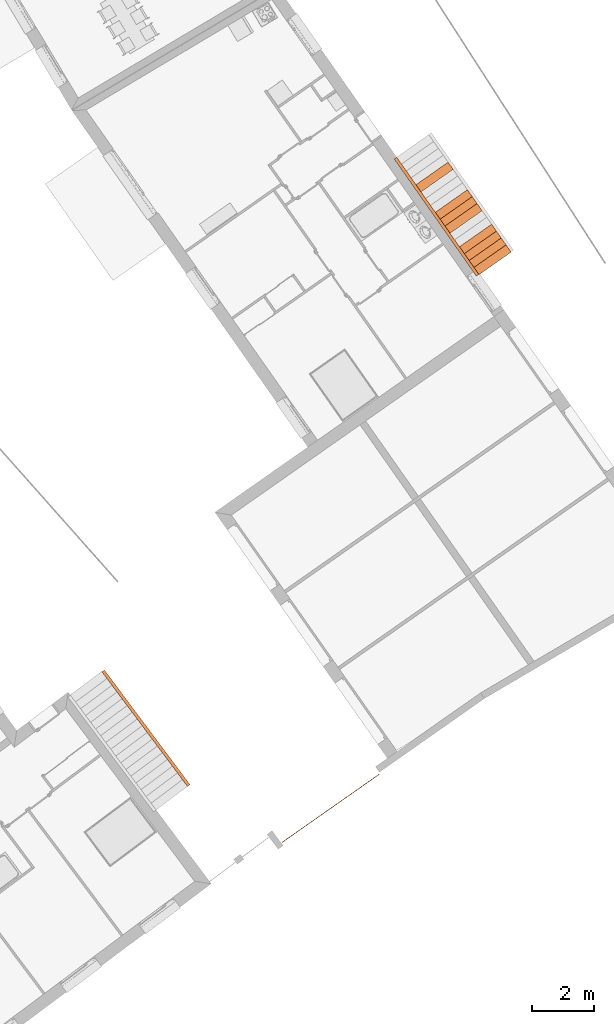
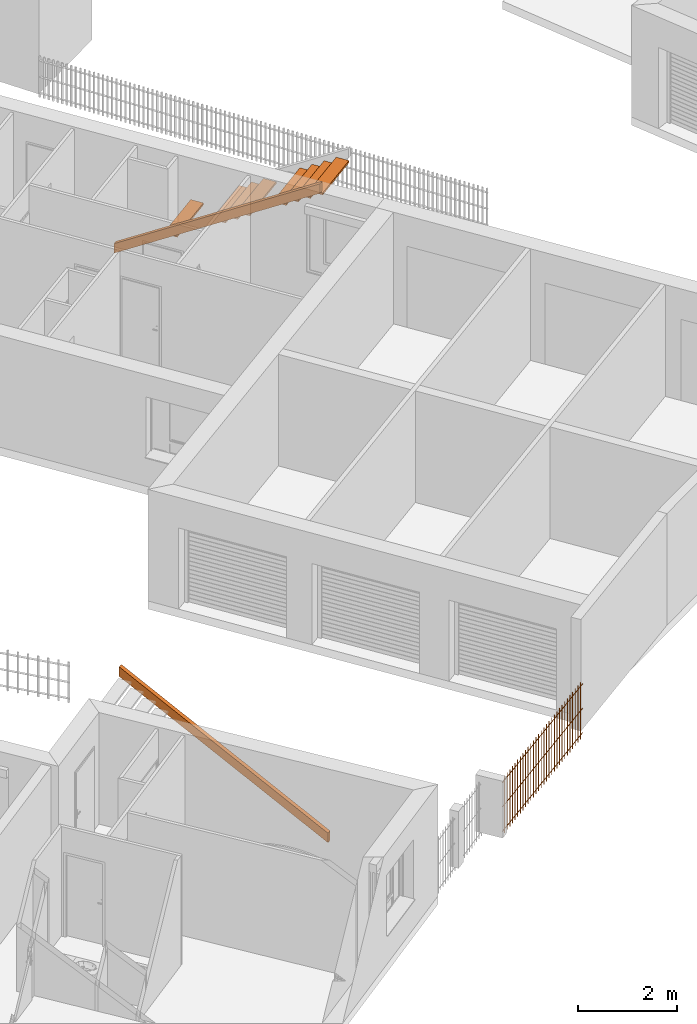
# One storey, part 185 of 195: 18 proxies, 4 elements without a shape of their own.
"""IFC2X3 building model written with IfcOpenShell, lengths in metres."""

from ifc_helpers import new_model, entity, si_unit, converted_unit, derived_unit, money_unit, direction, frame, origin_with_axes, place, context, subcontext, project, spatial, faceted_brep, material, type_object, element, aggregate, save


model = new_model("IFC2X3")

# Units and contexts
model_context = context("Model", 3, precision=1e-05, world=origin_with_axes(), true_north=direction((0.0, 1.0)))
body_context = subcontext(model_context, "Body", "Model", "MODEL_VIEW")
ifc_project = project(units=[si_unit("LENGTHUNIT", "METRE"), si_unit("AREAUNIT", "SQUARE_METRE"), si_unit("VOLUMEUNIT", "CUBIC_METRE"), converted_unit("PLANEANGLEUNIT", "DEGREE", entity("IfcPlaneAngleMeasure", 0.0174532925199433), si_unit("PLANEANGLEUNIT", "RADIAN"), dimensions=[0, 0, 0, 0, 0, 0, 0]), money_unit("CHF"), converted_unit("TIMEUNIT", "Year", entity("IfcTimeMeasure", 31557600.0), si_unit("TIMEUNIT", "SECOND"), dimensions=[0, 0, 1, 0, 0, 0, 0]), si_unit("MASSUNIT", "GRAM", prefix="KILO"), si_unit("THERMODYNAMICTEMPERATUREUNIT", "DEGREE_CELSIUS"), si_unit("LUMINOUSINTENSITYUNIT", "LUMEN"), si_unit("ENERGYUNIT", "JOULE", prefix="MEGA"), derived_unit("THERMALCONDUCTANCEUNIT", [(si_unit("POWERUNIT", "WATT"), 1), (si_unit("LENGTHUNIT", "METRE"), -1), (si_unit("THERMODYNAMICTEMPERATUREUNIT", "KELVIN"), -1)]), derived_unit("SPECIFICHEATCAPACITYUNIT", [(si_unit("ENERGYUNIT", "JOULE"), 1), (si_unit("MASSUNIT", "GRAM", prefix="KILO"), -1), (si_unit("THERMODYNAMICTEMPERATUREUNIT", "KELVIN"), -1)]), derived_unit("MASSDENSITYUNIT", [(si_unit("MASSUNIT", "GRAM", prefix="KILO"), 1), (si_unit("VOLUMEUNIT", "CUBIC_METRE"), -1)])], contexts=[model_context])

# Site, building, storey
site_placement = place(None, origin_with_axes())
site = spatial("IfcSite", under=ifc_project, at=site_placement, Name="Site", CompositionType="ELEMENT")
building_placement = place(site_placement, origin_with_axes())
building = spatial("IfcBuilding", under=site, at=building_placement, Name="Bâtiment", CompositionType="ELEMENT")
storey_placement = place(building_placement, origin_with_axes())
storey = spatial("IfcBuildingStorey", under=building, at=storey_placement, Name="rdc", CompositionType="ELEMENT", Elevation=0.0)

# Stair, proxies
stair_1_placement = place(storey_placement, frame((9553.64061674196, -1056.719987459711, 57.33248236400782), z_axis=(0.0, 0.0, 1.0), x_axis=(-0.7691003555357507, 0.6391280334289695, 0.0)))
stair_1 = element("IfcStair", 1, at=stair_1_placement, inside=storey, Name="ESC-028", ShapeType="NOTDEFINED")
ifc_material_1 = material(Name="Isolant styromousse 288701002")
building_element_proxy_type_1 = type_object("IfcBuildingElementProxyType", Name="IfcBuildingElementProxy", PredefinedType="NOTDEFINED")
proxy_1_placement = place(stair_1_placement, origin_with_axes())
proxy_1 = element("IfcBuildingElementProxy", 2, at=proxy_1_placement, type_object=building_element_proxy_type_1, material=ifc_material_1, Name="SS - 039", context=body_context, shape_type="Brep", body=[
    faceted_brep([(-4.428745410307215, 1.205949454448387, 2.882482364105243), (0.0, 0.0, 0.04914903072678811), (0.0, 0.0, 0.2841843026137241), (-4.428745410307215, 1.205949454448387, 3.117517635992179), (-4.402472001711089, 1.30243628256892, 2.882482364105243), (0.02627340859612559, 0.09648682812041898, 0.04914903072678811), (0.02627340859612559, 0.09648682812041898, 0.2841843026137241), (-4.402472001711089, 1.30243628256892, 3.117517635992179)], [[[0, 1, 2, 3]], [[4, 5, 1, 0]], [[2, 1, 5, 6]], [[3, 2, 6, 7]], [[7, 4, 0, 3]], [[7, 6, 5, 4]]]),
])
ifc_material_2 = material(Name="Lame d'air 275581351")
proxy_2_placement = place(stair_1_placement, frame((-1.169483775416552, -0.1842083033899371, 0.8333333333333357), z_axis=(0.0, 0.0, 1.0), x_axis=(-0.2627340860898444, -0.9648682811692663, 0.0)))
proxy_2 = element("IfcBuildingElementProxy", 3, at=proxy_2_placement, type_object=building_element_proxy_type_1, material=ifc_material_2, Name="MARCHE-541", context=body_context, shape_type="Brep", body=[
    faceted_brep([(-0.4850000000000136, 0.0, -0.04999999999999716), (-0.4850000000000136, 0.0, 0.0), (0.7724423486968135, -2.852402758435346e-10, 0.0), (0.7724423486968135, -2.852402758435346e-10, -0.04999999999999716), (-0.4849999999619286, -0.2849999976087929, -0.04999999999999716), (-0.4849999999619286, -0.2849999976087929, 0.0), (0.7724423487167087, -0.2849999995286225, 0.0), (0.7724423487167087, -0.2849999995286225, -0.04999999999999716)], [[[0, 1, 2, 3]], [[4, 5, 1, 0]], [[1, 5, 6, 2]], [[3, 2, 6, 7]], [[0, 3, 7, 4]], [[7, 6, 5, 4]]]),
])
proxy_3_placement = place(stair_1_placement, frame((-2.211541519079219, 0.09954450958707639, 1.5), z_axis=(0.0, 0.0, 1.0), x_axis=(-0.2627340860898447, -0.9648682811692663, 0.0)))
proxy_3 = element("IfcBuildingElementProxy", 4, at=proxy_3_placement, type_object=building_element_proxy_type_1, material=ifc_material_2, Name="MARCHE-545", context=body_context, shape_type="Brep", body=[
    faceted_brep([(-0.4850000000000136, 0.0, -0.04999999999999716), (-0.4850000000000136, 0.0, 0.0), (0.7724423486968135, -2.853539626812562e-10, 0.0), (0.7724423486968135, -2.853539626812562e-10, -0.04999999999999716), (-0.4849999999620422, -0.2849999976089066, -0.04999999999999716), (-0.4849999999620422, -0.2849999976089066, 0.0), (0.7724423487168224, -0.2849999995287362, 0.0), (0.7724423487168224, -0.2849999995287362, -0.04999999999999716)], [[[0, 1, 2, 3]], [[4, 5, 1, 0]], [[1, 5, 6, 2]], [[3, 2, 6, 7]], [[0, 3, 7, 4]], [[7, 6, 5, 4]]]),
])
proxy_4_placement = place(stair_1_placement, frame((-2.73257039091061, 0.2414209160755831, 1.833333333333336), z_axis=(0.0, 0.0, 1.0), x_axis=(-0.2627340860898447, -0.9648682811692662, 0.0)))
proxy_4 = element("IfcBuildingElementProxy", 5, at=proxy_4_placement, type_object=building_element_proxy_type_1, material=ifc_material_2, Name="MARCHE-547", context=body_context, shape_type="Brep", body=[
    faceted_brep([(-0.4850000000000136, 0.0, -0.04999999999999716), (-0.4850000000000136, 0.0, 0.0), (0.7724423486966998, -2.853539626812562e-10, 0.0), (0.7724423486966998, -2.853539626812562e-10, -0.04999999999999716), (-0.4849999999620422, -0.2849999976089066, -0.04999999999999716), (-0.4849999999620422, -0.2849999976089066, 0.0), (0.7724423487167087, -0.2849999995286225, 0.0), (0.7724423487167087, -0.2849999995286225, -0.04999999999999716)], [[[0, 1, 2, 3]], [[4, 5, 1, 0]], [[1, 5, 6, 2]], [[3, 2, 6, 7]], [[0, 3, 7, 4]], [[7, 6, 5, 4]]]),
])
proxy_5_placement = place(stair_1_placement, frame((-2.472055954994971, 0.1704827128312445, 1.666666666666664), z_axis=(0.0, 0.0, 1.0), x_axis=(-0.2627340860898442, -0.9648682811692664, 0.0)))
proxy_5 = element("IfcBuildingElementProxy", 6, at=proxy_5_placement, type_object=building_element_proxy_type_1, material=ifc_material_2, Name="MARCHE-546", context=body_context, shape_type="Brep", body=[
    faceted_brep([(-0.4850000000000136, 0.0, -0.04999999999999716), (-0.4850000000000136, 0.0, 0.0), (0.7724423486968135, -2.853539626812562e-10, 0.0), (0.7724423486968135, -2.853539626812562e-10, -0.04999999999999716), (-0.4849999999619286, -0.2849999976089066, -0.04999999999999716), (-0.4849999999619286, -0.2849999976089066, 0.0), (0.7724423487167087, -0.2849999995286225, 0.0), (0.7724423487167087, -0.2849999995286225, -0.04999999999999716)], [[[0, 1, 2, 3]], [[4, 5, 1, 0]], [[1, 5, 6, 2]], [[3, 2, 6, 7]], [[0, 3, 7, 4]], [[7, 6, 5, 4]]]),
])
proxy_6_placement = place(stair_1_placement, frame((-3.514113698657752, 0.4542355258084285, 2.333333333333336), z_axis=(0.0, 0.0, 1.0), x_axis=(-0.2627340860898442, -0.9648682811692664, 0.0)))
proxy_6 = element("IfcBuildingElementProxy", 7, at=proxy_6_placement, type_object=building_element_proxy_type_1, material=ifc_material_2, Name="MARCHE-550", context=body_context, shape_type="Brep", body=[
    faceted_brep([(-0.4849999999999, 0.0, -0.04999999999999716), (-0.4849999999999, 0.0, 0.0), (0.7724423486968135, -2.852402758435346e-10, 0.0), (0.7724423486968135, -2.852402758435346e-10, -0.04999999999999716), (-0.4849999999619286, -0.2849999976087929, -0.04999999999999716), (-0.4849999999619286, -0.2849999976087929, 0.0), (0.7724423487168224, -0.2849999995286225, 0.0), (0.7724423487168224, -0.2849999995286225, -0.04999999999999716)], [[[0, 1, 2, 3]], [[4, 5, 1, 0]], [[1, 5, 6, 2]], [[3, 2, 6, 7]], [[0, 3, 7, 4]], [[7, 6, 5, 4]]]),
])
proxy_7_placement = place(stair_1_placement, frame((-3.774628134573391, 0.5251737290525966, 2.5), z_axis=(0.0, 0.0, 1.0), x_axis=(-0.2627340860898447, -0.9648682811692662, 0.0)))
proxy_7 = element("IfcBuildingElementProxy", 8, at=proxy_7_placement, type_object=building_element_proxy_type_1, material=ifc_material_2, Name="MARCHE-551", context=body_context, shape_type="Brep", body=[
    faceted_brep([(-0.4850000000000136, 0.0, -0.04999999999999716), (-0.4850000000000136, 0.0, 0.0), (0.7724423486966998, -2.853539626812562e-10, 0.0), (0.7724423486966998, -2.853539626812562e-10, -0.04999999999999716), (-0.4849999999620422, -0.2849999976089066, -0.04999999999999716), (-0.4849999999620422, -0.2849999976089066, 0.0), (0.7724423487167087, -0.2849999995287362, 0.0), (0.7724423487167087, -0.2849999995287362, -0.04999999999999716)], [[[0, 1, 2, 3]], [[4, 5, 1, 0]], [[1, 5, 6, 2]], [[3, 2, 6, 7]], [[0, 3, 7, 4]], [[7, 6, 5, 4]]]),
])
proxy_8_placement = place(stair_1_placement, frame((-4.035142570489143, 0.5961119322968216, 2.666666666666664), z_axis=(0.0, 0.0, 1.0), x_axis=(-0.2627340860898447, -0.9648682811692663, 0.0)))
proxy_8 = element("IfcBuildingElementProxy", 9, at=proxy_8_placement, type_object=building_element_proxy_type_1, material=ifc_material_2, Name="MARCHE-552", context=body_context, shape_type="Brep", body=[
    faceted_brep([(-0.4850000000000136, 0.0, -0.04999999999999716), (-0.4850000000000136, 0.0, 0.0), (0.7724423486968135, -2.853539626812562e-10, 0.0), (0.7724423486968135, -2.853539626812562e-10, -0.04999999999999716), (-0.4849999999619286, -0.2849999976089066, -0.04999999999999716), (-0.4849999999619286, -0.2849999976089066, 0.0), (0.7724423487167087, -0.2849999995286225, 0.0), (0.7724423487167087, -0.2849999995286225, -0.04999999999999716)], [[[0, 1, 2, 3]], [[4, 5, 1, 0]], [[1, 5, 6, 2]], [[3, 2, 6, 7]], [[0, 3, 7, 4]], [[7, 6, 5, 4]]]),
])
proxy_9_placement = place(stair_1_placement, frame((-4.295657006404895, 0.6670501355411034, 2.833333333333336), z_axis=(0.0, 0.0, 1.0), x_axis=(-0.262734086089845, -0.9648682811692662, 0.0)))
proxy_9 = element("IfcBuildingElementProxy", 10, at=proxy_9_placement, type_object=building_element_proxy_type_1, material=ifc_material_2, Name="MARCHE-553", context=body_context, shape_type="Brep", body=[
    faceted_brep([(-0.4849999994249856, 0.0, -0.04999999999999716), (-0.4849999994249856, 0.0, 0.0), (0.772442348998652, 0.0, 0.0), (0.772442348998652, 0.0, -0.04999999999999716), (-0.4849999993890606, -0.2699999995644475, -0.04999999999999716), (-0.4849999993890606, -0.2699999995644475, 0.0), (-0.4849999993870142, -0.2849999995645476, 0.0), (0.7724423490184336, -0.2849999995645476, 0.0), (0.7724423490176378, -0.2699999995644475, 0.0), (0.7724423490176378, -0.2699999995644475, -0.04999999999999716), (0.7724423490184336, -0.2849999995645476, -0.04999999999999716), (-0.4849999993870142, -0.2849999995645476, -0.04999999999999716)], [[[0, 1, 2, 3]], [[4, 5, 1, 0]], [[1, 5, 6, 7, 8, 2]], [[3, 2, 8, 9]], [[0, 3, 9, 10, 11, 4]], [[11, 6, 5, 4]], [[10, 7, 6, 11]], [[9, 8, 7, 10]]]),
])
aggregate(stair_1, [proxy_1, proxy_2, proxy_3, proxy_4, proxy_5, proxy_6, proxy_7, proxy_8, proxy_9])

# Stair, proxy
stair_2_placement = place(storey_placement, frame((9546.930300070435, -1076.908665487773, 57.33248236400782), z_axis=(0.0, 0.0, 1.0), x_axis=(0.7879032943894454, -0.6157989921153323, 0.0)))
stair_2 = element("IfcStair", 11, at=stair_2_placement, inside=storey, Name="ESC-028", ShapeType="NOTDEFINED")
proxy_10_placement = place(stair_2_placement, origin_with_axes())
proxy_10 = element("IfcBuildingElementProxy", 12, at=proxy_10_placement, type_object=building_element_proxy_type_1, material=ifc_material_1, Name="SS - 039", context=body_context, shape_type="Brep", body=[
    faceted_brep([(-4.428745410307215, 1.205949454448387, 2.882482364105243), (0.0, 0.0, 0.04914903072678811), (0.0, 0.0, 0.2841843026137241), (-4.428745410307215, 1.205949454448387, 3.117517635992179), (-4.402472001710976, 1.302436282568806, 2.882482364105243), (0.02627340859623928, 0.09648682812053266, 0.04914903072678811), (0.02627340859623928, 0.09648682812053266, 0.2841843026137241), (-4.402472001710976, 1.302436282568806, 3.117517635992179)], [[[0, 1, 2, 3]], [[4, 5, 1, 0]], [[2, 1, 5, 6]], [[3, 2, 6, 7]], [[7, 4, 0, 3]], [[7, 6, 5, 4]]]),
])
aggregate(stair_2, [proxy_10])

# Stair, proxies
stair_3_placement = place(storey_placement, frame((9553.64061674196, -1056.719987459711, 57.33248236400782), z_axis=(0.0, 0.0, 1.0), x_axis=(-0.7691003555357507, 0.6391280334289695, 0.0)))
stair_3 = element("IfcStair", 13, at=stair_3_placement, inside=storey, Name="ESC-028", ShapeType="NOTDEFINED")
proxy_11_placement = place(stair_3_placement, origin_with_axes())
proxy_11 = element("IfcBuildingElementProxy", 14, at=proxy_11_placement, type_object=building_element_proxy_type_1, material=ifc_material_1, Name="SS - 039", context=body_context, shape_type="Brep", body=[
    faceted_brep([(-4.428745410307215, 1.205949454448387, 2.882482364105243), (0.0, 0.0, 0.04914903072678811), (0.0, 0.0, 0.2841843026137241), (-4.428745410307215, 1.205949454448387, 3.117517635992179), (-4.402472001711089, 1.30243628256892, 2.882482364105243), (0.02627340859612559, 0.09648682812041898, 0.04914903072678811), (0.02627340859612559, 0.09648682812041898, 0.2841843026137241), (-4.402472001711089, 1.30243628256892, 3.117517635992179)], [[[0, 1, 2, 3]], [[4, 5, 1, 0]], [[2, 1, 5, 6]], [[3, 2, 6, 7]], [[7, 4, 0, 3]], [[7, 6, 5, 4]]]),
])
proxy_12_placement = place(stair_3_placement, frame((-1.169483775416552, -0.1842083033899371, 0.8333333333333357), z_axis=(0.0, 0.0, 1.0), x_axis=(-0.2627340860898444, -0.9648682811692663, 0.0)))
proxy_12 = element("IfcBuildingElementProxy", 15, at=proxy_12_placement, type_object=building_element_proxy_type_1, material=ifc_material_2, Name="MARCHE-541", context=body_context, shape_type="Brep", body=[
    faceted_brep([(-0.4850000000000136, 0.0, -0.04999999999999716), (-0.4850000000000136, 0.0, 0.0), (0.7724423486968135, -2.852402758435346e-10, 0.0), (0.7724423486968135, -2.852402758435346e-10, -0.04999999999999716), (-0.4849999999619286, -0.2849999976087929, -0.04999999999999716), (-0.4849999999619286, -0.2849999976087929, 0.0), (0.7724423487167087, -0.2849999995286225, 0.0), (0.7724423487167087, -0.2849999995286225, -0.04999999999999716)], [[[0, 1, 2, 3]], [[4, 5, 1, 0]], [[1, 5, 6, 2]], [[3, 2, 6, 7]], [[0, 3, 7, 4]], [[7, 6, 5, 4]]]),
])
proxy_13_placement = place(stair_3_placement, frame((-3.514113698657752, 0.4542355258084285, 2.333333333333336), z_axis=(0.0, 0.0, 1.0), x_axis=(-0.2627340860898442, -0.9648682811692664, 0.0)))
proxy_13 = element("IfcBuildingElementProxy", 16, at=proxy_13_placement, type_object=building_element_proxy_type_1, material=ifc_material_2, Name="MARCHE-550", context=body_context, shape_type="Brep", body=[
    faceted_brep([(-0.4849999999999, 0.0, -0.04999999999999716), (-0.4849999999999, 0.0, 0.0), (0.7724423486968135, -2.852402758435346e-10, 0.0), (0.7724423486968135, -2.852402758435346e-10, -0.04999999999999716), (-0.4849999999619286, -0.2849999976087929, -0.04999999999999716), (-0.4849999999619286, -0.2849999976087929, 0.0), (0.7724423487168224, -0.2849999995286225, 0.0), (0.7724423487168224, -0.2849999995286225, -0.04999999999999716)], [[[0, 1, 2, 3]], [[4, 5, 1, 0]], [[1, 5, 6, 2]], [[3, 2, 6, 7]], [[0, 3, 7, 4]], [[7, 6, 5, 4]]]),
])
proxy_14_placement = place(stair_3_placement, frame((-4.295657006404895, 0.6670501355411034, 2.833333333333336), z_axis=(0.0, 0.0, 1.0), x_axis=(-0.262734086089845, -0.9648682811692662, 0.0)))
proxy_14 = element("IfcBuildingElementProxy", 17, at=proxy_14_placement, type_object=building_element_proxy_type_1, material=ifc_material_2, Name="MARCHE-553", context=body_context, shape_type="Brep", body=[
    faceted_brep([(-0.4849999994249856, 0.0, -0.04999999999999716), (-0.4849999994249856, 0.0, 0.0), (0.772442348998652, 0.0, 0.0), (0.772442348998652, 0.0, -0.04999999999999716), (-0.4849999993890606, -0.2699999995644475, -0.04999999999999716), (-0.4849999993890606, -0.2699999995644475, 0.0), (-0.4849999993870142, -0.2849999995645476, 0.0), (0.7724423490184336, -0.2849999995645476, 0.0), (0.7724423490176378, -0.2699999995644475, 0.0), (0.7724423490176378, -0.2699999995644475, -0.04999999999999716), (0.7724423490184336, -0.2849999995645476, -0.04999999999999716), (-0.4849999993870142, -0.2849999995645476, -0.04999999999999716)], [[[0, 1, 2, 3]], [[4, 5, 1, 0]], [[1, 5, 6, 7, 8, 2]], [[3, 2, 8, 9]], [[0, 3, 9, 10, 11, 4]], [[11, 6, 5, 4]], [[10, 7, 6, 11]], [[9, 8, 7, 10]]]),
])
proxy_15_placement = place(stair_3_placement, frame((-4.035142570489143, 0.5961119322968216, 2.666666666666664), z_axis=(0.0, 0.0, 1.0), x_axis=(-0.2627340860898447, -0.9648682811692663, 0.0)))
proxy_15 = element("IfcBuildingElementProxy", 18, at=proxy_15_placement, type_object=building_element_proxy_type_1, material=ifc_material_2, Name="MARCHE-552", context=body_context, shape_type="Brep", body=[
    faceted_brep([(-0.4850000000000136, 0.0, -0.04999999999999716), (-0.4850000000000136, 0.0, 0.0), (0.7724423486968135, -2.853539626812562e-10, 0.0), (0.7724423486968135, -2.853539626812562e-10, -0.04999999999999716), (-0.4849999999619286, -0.2849999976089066, -0.04999999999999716), (-0.4849999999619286, -0.2849999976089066, 0.0), (0.7724423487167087, -0.2849999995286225, 0.0), (0.7724423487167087, -0.2849999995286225, -0.04999999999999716)], [[[0, 1, 2, 3]], [[4, 5, 1, 0]], [[1, 5, 6, 2]], [[3, 2, 6, 7]], [[0, 3, 7, 4]], [[7, 6, 5, 4]]]),
])
proxy_16_placement = place(stair_3_placement, frame((-3.774628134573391, 0.5251737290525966, 2.5), z_axis=(0.0, 0.0, 1.0), x_axis=(-0.2627340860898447, -0.9648682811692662, 0.0)))
proxy_16 = element("IfcBuildingElementProxy", 19, at=proxy_16_placement, type_object=building_element_proxy_type_1, material=ifc_material_2, Name="MARCHE-551", context=body_context, shape_type="Brep", body=[
    faceted_brep([(-0.4850000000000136, 0.0, -0.04999999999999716), (-0.4850000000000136, 0.0, 0.0), (0.7724423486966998, -2.853539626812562e-10, 0.0), (0.7724423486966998, -2.853539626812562e-10, -0.04999999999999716), (-0.4849999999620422, -0.2849999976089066, -0.04999999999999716), (-0.4849999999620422, -0.2849999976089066, 0.0), (0.7724423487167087, -0.2849999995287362, 0.0), (0.7724423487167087, -0.2849999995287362, -0.04999999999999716)], [[[0, 1, 2, 3]], [[4, 5, 1, 0]], [[1, 5, 6, 2]], [[3, 2, 6, 7]], [[0, 3, 7, 4]], [[7, 6, 5, 4]]]),
])
aggregate(stair_3, [proxy_11, proxy_12, proxy_13, proxy_14, proxy_15, proxy_16])

# Stair, proxy
stair_4_placement = place(storey_placement, frame((9546.930300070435, -1076.908665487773, 57.33248236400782), z_axis=(0.0, 0.0, 1.0), x_axis=(0.7879032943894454, -0.6157989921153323, 0.0)))
stair_4 = element("IfcStair", 20, at=stair_4_placement, inside=storey, Name="ESC-028", ShapeType="NOTDEFINED")
proxy_17_placement = place(stair_4_placement, origin_with_axes())
proxy_17 = element("IfcBuildingElementProxy", 21, at=proxy_17_placement, type_object=building_element_proxy_type_1, material=ifc_material_1, Name="SS - 039", context=body_context, shape_type="Brep", body=[
    faceted_brep([(-4.428745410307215, 1.205949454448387, 2.882482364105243), (0.0, 0.0, 0.04914903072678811), (0.0, 0.0, 0.2841843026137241), (-4.428745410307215, 1.205949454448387, 3.117517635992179), (-4.402472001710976, 1.302436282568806, 2.882482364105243), (0.02627340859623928, 0.09648682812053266, 0.04914903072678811), (0.02627340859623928, 0.09648682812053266, 0.2841843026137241), (-4.402472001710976, 1.302436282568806, 3.117517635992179)], [[[0, 1, 2, 3]], [[4, 5, 1, 0]], [[2, 1, 5, 6]], [[3, 2, 6, 7]], [[7, 4, 0, 3]], [[7, 6, 5, 4]]]),
])
aggregate(stair_4, [proxy_17])

# Proxy
building_element_proxy_type_2 = type_object("IfcBuildingElementProxyType", Name="Grille anti-effraction", PredefinedType="NOTDEFINED")
proxy_18_placement = place(storey_placement, frame((9551.523741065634, -1077.609817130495, 57.6), z_axis=(0.0, 0.0, 1.0), x_axis=(-0.8187432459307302, -0.5741598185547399, 0.0)))
element("IfcBuildingElementProxy", 22, at=proxy_18_placement, inside=storey, type_object=building_element_proxy_type_2, Name="Obj.-010", context=body_context, shape_type="Brep", body=[
    faceted_brep([(1.915112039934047, -0.01, 0.1), (1.915112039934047, 0.0, 0.09000000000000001), (1.915112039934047, 0.01, 0.1), (1.915112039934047, 0.0, 0.11), (-1.915112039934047, -0.01, 0.1000000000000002), (-1.915112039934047, 0.0, 0.09000000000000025), (-1.915112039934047, 0.01, 0.1000000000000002), (-1.915112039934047, 0.0, 0.1100000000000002)], [[[0, 1, 2, 3]], [[0, 4, 5, 1]], [[1, 5, 6, 2]], [[2, 6, 7, 3]], [[3, 7, 4, 0]], [[4, 7, 6, 5]]]),
    faceted_brep([(1.915112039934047, -0.01, 0.7), (1.915112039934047, 0.0, 0.69), (1.915112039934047, 0.01, 0.7), (1.915112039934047, 0.0, 0.71), (-1.915112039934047, -0.01, 0.7000000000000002), (-1.915112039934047, 0.0, 0.6900000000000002), (-1.915112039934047, 0.01, 0.7000000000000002), (-1.915112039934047, 0.0, 0.7100000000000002)], [[[0, 1, 2, 3]], [[0, 4, 5, 1]], [[1, 5, 6, 2]], [[2, 6, 7, 3]], [[3, 7, 4, 0]], [[4, 7, 6, 5]]]),
    faceted_brep([(1.915112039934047, -0.01, 1.3), (1.915112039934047, 0.0, 1.29), (1.915112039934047, 0.01, 1.3), (1.915112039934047, 0.0, 1.31), (-1.915112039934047, -0.01, 1.3), (-1.915112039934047, 0.0, 1.29), (-1.915112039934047, 0.01, 1.3), (-1.915112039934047, 0.0, 1.31)], [[[0, 1, 2, 3]], [[0, 4, 5, 1]], [[1, 5, 6, 2]], [[2, 6, 7, 3]], [[3, 7, 4, 0]], [[4, 7, 6, 5]]]),
    faceted_brep([(1.815112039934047, -0.01, 0.0), (1.805112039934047, 0.0, 0.0), (1.815112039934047, 0.01, 0.0), (1.825112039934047, 0.0, 0.0), (1.815112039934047, -0.01, 1.4), (1.805112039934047, 0.0, 1.4), (1.815112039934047, 0.01, 1.4), (1.825112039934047, 0.0, 1.4)], [[[0, 1, 2, 3]], [[0, 4, 5, 1]], [[1, 5, 6, 2]], [[2, 6, 7, 3]], [[3, 7, 4, 0]], [[4, 7, 6, 5]]]),
    faceted_brep([(1.68993189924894, -0.01, 0.0), (1.67993189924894, 0.0, 0.0), (1.68993189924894, 0.01, 0.0), (1.69993189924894, 0.0, 0.0), (1.68993189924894, -0.01, 1.4), (1.67993189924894, 0.0, 1.4), (1.68993189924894, 0.01, 1.4), (1.69993189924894, 0.0, 1.4)], [[[0, 1, 2, 3]], [[0, 4, 5, 1]], [[1, 5, 6, 2]], [[2, 6, 7, 3]], [[3, 7, 4, 0]], [[4, 7, 6, 5]]]),
    faceted_brep([(1.564751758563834, -0.01, 0.0), (1.554751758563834, 0.0, 0.0), (1.564751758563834, 0.01, 0.0), (1.574751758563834, 0.0, 0.0), (1.564751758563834, -0.01, 1.4), (1.554751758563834, 0.0, 1.4), (1.564751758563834, 0.01, 1.4), (1.574751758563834, 0.0, 1.4)], [[[0, 1, 2, 3]], [[0, 4, 5, 1]], [[1, 5, 6, 2]], [[2, 6, 7, 3]], [[3, 7, 4, 0]], [[4, 7, 6, 5]]]),
    faceted_brep([(1.439571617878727, -0.01, 0.0), (1.429571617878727, 0.0, 0.0), (1.439571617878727, 0.01, 0.0), (1.449571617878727, 0.0, 0.0), (1.439571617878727, -0.01, 1.4), (1.429571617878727, 0.0, 1.4), (1.439571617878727, 0.01, 1.4), (1.449571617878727, 0.0, 1.4)], [[[0, 1, 2, 3]], [[0, 4, 5, 1]], [[1, 5, 6, 2]], [[2, 6, 7, 3]], [[3, 7, 4, 0]], [[4, 7, 6, 5]]]),
    faceted_brep([(1.31439147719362, -0.01, 0.0), (1.30439147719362, 0.0, 0.0), (1.31439147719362, 0.01, 0.0), (1.32439147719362, 0.0, 0.0), (1.31439147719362, -0.01, 1.4), (1.30439147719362, 0.0, 1.4), (1.31439147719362, 0.01, 1.4), (1.32439147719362, 0.0, 1.4)], [[[0, 1, 2, 3]], [[0, 4, 5, 1]], [[1, 5, 6, 2]], [[2, 6, 7, 3]], [[3, 7, 4, 0]], [[4, 7, 6, 5]]]),
    faceted_brep([(1.189211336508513, -0.01, 0.0), (1.179211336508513, 0.0, 0.0), (1.189211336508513, 0.01, 0.0), (1.199211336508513, 0.0, 0.0), (1.189211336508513, -0.01, 1.4), (1.179211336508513, 0.0, 1.4), (1.189211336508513, 0.01, 1.4), (1.199211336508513, 0.0, 1.4)], [[[0, 1, 2, 3]], [[0, 4, 5, 1]], [[1, 5, 6, 2]], [[2, 6, 7, 3]], [[3, 7, 4, 0]], [[4, 7, 6, 5]]]),
    faceted_brep([(1.064031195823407, -0.01, 0.0), (1.054031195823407, 0.0, 0.0), (1.064031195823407, 0.01, 0.0), (1.074031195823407, 0.0, 0.0), (1.064031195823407, -0.01, 1.4), (1.054031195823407, 0.0, 1.4), (1.064031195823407, 0.01, 1.4), (1.074031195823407, 0.0, 1.4)], [[[0, 1, 2, 3]], [[0, 4, 5, 1]], [[1, 5, 6, 2]], [[2, 6, 7, 3]], [[3, 7, 4, 0]], [[4, 7, 6, 5]]]),
    faceted_brep([(0.9388510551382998, -0.01, 0.0), (0.9288510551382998, 0.0, 0.0), (0.9388510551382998, 0.01, 0.0), (0.9488510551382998, 0.0, 0.0), (0.9388510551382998, -0.01, 1.4), (0.9288510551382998, 0.0, 1.4), (0.9388510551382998, 0.01, 1.4), (0.9488510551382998, 0.0, 1.4)], [[[0, 1, 2, 3]], [[0, 4, 5, 1]], [[1, 5, 6, 2]], [[2, 6, 7, 3]], [[3, 7, 4, 0]], [[4, 7, 6, 5]]]),
    faceted_brep([(0.8136709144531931, -0.01, 0.0), (0.803670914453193, 0.0, 0.0), (0.8136709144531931, 0.01, 0.0), (0.8236709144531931, 0.0, 0.0), (0.8136709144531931, -0.01, 1.4), (0.803670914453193, 0.0, 1.4), (0.8136709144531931, 0.01, 1.4), (0.8236709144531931, 0.0, 1.4)], [[[0, 1, 2, 3]], [[0, 4, 5, 1]], [[1, 5, 6, 2]], [[2, 6, 7, 3]], [[3, 7, 4, 0]], [[4, 7, 6, 5]]]),
    faceted_brep([(0.6884907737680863, -0.01, 0.0), (0.6784907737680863, 0.0, 0.0), (0.6884907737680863, 0.01, 0.0), (0.6984907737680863, 0.0, 0.0), (0.6884907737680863, -0.01, 1.4), (0.6784907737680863, 0.0, 1.4), (0.6884907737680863, 0.01, 1.4), (0.6984907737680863, 0.0, 1.4)], [[[0, 1, 2, 3]], [[0, 4, 5, 1]], [[1, 5, 6, 2]], [[2, 6, 7, 3]], [[3, 7, 4, 0]], [[4, 7, 6, 5]]]),
    faceted_brep([(0.5633106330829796, -0.01, 0.0), (0.5533106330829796, 0.0, 0.0), (0.5633106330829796, 0.01, 0.0), (0.5733106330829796, 0.0, 0.0), (0.5633106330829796, -0.01, 1.4), (0.5533106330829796, 0.0, 1.4), (0.5633106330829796, 0.01, 1.4), (0.5733106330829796, 0.0, 1.4)], [[[0, 1, 2, 3]], [[0, 4, 5, 1]], [[1, 5, 6, 2]], [[2, 6, 7, 3]], [[3, 7, 4, 0]], [[4, 7, 6, 5]]]),
    faceted_brep([(0.4381304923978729, -0.01, 0.0), (0.4281304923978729, 0.0, 0.0), (0.4381304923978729, 0.01, 0.0), (0.4481304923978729, 0.0, 0.0), (0.4381304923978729, -0.01, 1.4), (0.4281304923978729, 0.0, 1.4), (0.4381304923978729, 0.01, 1.4), (0.4481304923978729, 0.0, 1.4)], [[[0, 1, 2, 3]], [[0, 4, 5, 1]], [[1, 5, 6, 2]], [[2, 6, 7, 3]], [[3, 7, 4, 0]], [[4, 7, 6, 5]]]),
    faceted_brep([(0.3129503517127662, -0.01, 0.0), (0.3029503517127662, 0.0, 0.0), (0.3129503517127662, 0.01, 0.0), (0.3229503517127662, 0.0, 0.0), (0.3129503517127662, -0.01, 1.4), (0.3029503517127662, 0.0, 1.4), (0.3129503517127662, 0.01, 1.4), (0.3229503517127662, 0.0, 1.4)], [[[0, 1, 2, 3]], [[0, 4, 5, 1]], [[1, 5, 6, 2]], [[2, 6, 7, 3]], [[3, 7, 4, 0]], [[4, 7, 6, 5]]]),
    faceted_brep([(0.1877702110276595, -0.01, 0.0), (0.1777702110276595, 0.0, 0.0), (0.1877702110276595, 0.01, 0.0), (0.1977702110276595, 0.0, 0.0), (0.1877702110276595, -0.01, 1.4), (0.1777702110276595, 0.0, 1.4), (0.1877702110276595, 0.01, 1.4), (0.1977702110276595, 0.0, 1.4)], [[[0, 1, 2, 3]], [[0, 4, 5, 1]], [[1, 5, 6, 2]], [[2, 6, 7, 3]], [[3, 7, 4, 0]], [[4, 7, 6, 5]]]),
    faceted_brep([(0.06259007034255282, -0.01, 0.0), (0.05259007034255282, 0.0, 0.0), (0.06259007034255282, 0.01, 0.0), (0.07259007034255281, 0.0, 0.0), (0.06259007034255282, -0.01, 1.4), (0.05259007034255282, 0.0, 1.4), (0.06259007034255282, 0.01, 1.4), (0.07259007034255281, 0.0, 1.4)], [[[0, 1, 2, 3]], [[0, 4, 5, 1]], [[1, 5, 6, 2]], [[2, 6, 7, 3]], [[3, 7, 4, 0]], [[4, 7, 6, 5]]]),
    faceted_brep([(-0.06259007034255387, -0.01, 0.0), (-0.07259007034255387, 0.0, 0.0), (-0.06259007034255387, 0.01, 0.0), (-0.05259007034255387, 0.0, 0.0), (-0.06259007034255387, -0.01, 1.4), (-0.07259007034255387, 0.0, 1.4), (-0.06259007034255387, 0.01, 1.4), (-0.05259007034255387, 0.0, 1.4)], [[[0, 1, 2, 3]], [[0, 4, 5, 1]], [[1, 5, 6, 2]], [[2, 6, 7, 3]], [[3, 7, 4, 0]], [[4, 7, 6, 5]]]),
    faceted_brep([(-0.1877702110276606, -0.01, 0.0), (-0.1977702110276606, 0.0, 0.0), (-0.1877702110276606, 0.01, 0.0), (-0.1777702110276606, 0.0, 0.0), (-0.1877702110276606, -0.01, 1.4), (-0.1977702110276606, 0.0, 1.4), (-0.1877702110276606, 0.01, 1.4), (-0.1777702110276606, 0.0, 1.4)], [[[0, 1, 2, 3]], [[0, 4, 5, 1]], [[1, 5, 6, 2]], [[2, 6, 7, 3]], [[3, 7, 4, 0]], [[4, 7, 6, 5]]]),
    faceted_brep([(-0.3129503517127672, -0.01, 0.0), (-0.3229503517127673, 0.0, 0.0), (-0.3129503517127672, 0.01, 0.0), (-0.3029503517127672, 0.0, 0.0), (-0.3129503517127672, -0.01, 1.4), (-0.3229503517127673, 0.0, 1.4), (-0.3129503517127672, 0.01, 1.4), (-0.3029503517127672, 0.0, 1.4)], [[[0, 1, 2, 3]], [[0, 4, 5, 1]], [[1, 5, 6, 2]], [[2, 6, 7, 3]], [[3, 7, 4, 0]], [[4, 7, 6, 5]]]),
    faceted_brep([(-0.4381304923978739, -0.01, 0.0), (-0.4481304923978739, 0.0, 0.0), (-0.4381304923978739, 0.01, 0.0), (-0.4281304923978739, 0.0, 0.0), (-0.4381304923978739, -0.01, 1.4), (-0.4481304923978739, 0.0, 1.4), (-0.4381304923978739, 0.01, 1.4), (-0.4281304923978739, 0.0, 1.4)], [[[0, 1, 2, 3]], [[0, 4, 5, 1]], [[1, 5, 6, 2]], [[2, 6, 7, 3]], [[3, 7, 4, 0]], [[4, 7, 6, 5]]]),
    faceted_brep([(-0.5633106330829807, -0.01, 0.0), (-0.5733106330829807, 0.0, 0.0), (-0.5633106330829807, 0.01, 0.0), (-0.5533106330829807, 0.0, 0.0), (-0.5633106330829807, -0.01, 1.4), (-0.5733106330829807, 0.0, 1.4), (-0.5633106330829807, 0.01, 1.4), (-0.5533106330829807, 0.0, 1.4)], [[[0, 1, 2, 3]], [[0, 4, 5, 1]], [[1, 5, 6, 2]], [[2, 6, 7, 3]], [[3, 7, 4, 0]], [[4, 7, 6, 5]]]),
    faceted_brep([(-0.6884907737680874, -0.01, 0.0), (-0.6984907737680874, 0.0, 0.0), (-0.6884907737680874, 0.01, 0.0), (-0.6784907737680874, 0.0, 0.0), (-0.6884907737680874, -0.01, 1.4), (-0.6984907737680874, 0.0, 1.4), (-0.6884907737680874, 0.01, 1.4), (-0.6784907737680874, 0.0, 1.4)], [[[0, 1, 2, 3]], [[0, 4, 5, 1]], [[1, 5, 6, 2]], [[2, 6, 7, 3]], [[3, 7, 4, 0]], [[4, 7, 6, 5]]]),
    faceted_brep([(-0.8136709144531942, -0.01, 0.0), (-0.8236709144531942, 0.0, 0.0), (-0.8136709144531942, 0.01, 0.0), (-0.8036709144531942, 0.0, 0.0), (-0.8136709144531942, -0.01, 1.4), (-0.8236709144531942, 0.0, 1.4), (-0.8136709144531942, 0.01, 1.4), (-0.8036709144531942, 0.0, 1.4)], [[[0, 1, 2, 3]], [[0, 4, 5, 1]], [[1, 5, 6, 2]], [[2, 6, 7, 3]], [[3, 7, 4, 0]], [[4, 7, 6, 5]]]),
    faceted_brep([(-0.9388510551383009, -0.01, 0.0), (-0.9488510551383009, 0.0, 0.0), (-0.9388510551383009, 0.01, 0.0), (-0.9288510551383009, 0.0, 0.0), (-0.9388510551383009, -0.01, 1.4), (-0.9488510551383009, 0.0, 1.4), (-0.9388510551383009, 0.01, 1.4), (-0.9288510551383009, 0.0, 1.4)], [[[0, 1, 2, 3]], [[0, 4, 5, 1]], [[1, 5, 6, 2]], [[2, 6, 7, 3]], [[3, 7, 4, 0]], [[4, 7, 6, 5]]]),
    faceted_brep([(-1.064031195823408, -0.01, 0.0), (-1.074031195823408, 0.0, 0.0), (-1.064031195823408, 0.01, 0.0), (-1.054031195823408, 0.0, 0.0), (-1.064031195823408, -0.01, 1.4), (-1.074031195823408, 0.0, 1.4), (-1.064031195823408, 0.01, 1.4), (-1.054031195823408, 0.0, 1.4)], [[[0, 1, 2, 3]], [[0, 4, 5, 1]], [[1, 5, 6, 2]], [[2, 6, 7, 3]], [[3, 7, 4, 0]], [[4, 7, 6, 5]]]),
    faceted_brep([(-1.189211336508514, -0.01, 0.0), (-1.199211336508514, 0.0, 0.0), (-1.189211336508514, 0.01, 0.0), (-1.179211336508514, 0.0, 0.0), (-1.189211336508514, -0.01, 1.4), (-1.199211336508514, 0.0, 1.4), (-1.189211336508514, 0.01, 1.4), (-1.179211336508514, 0.0, 1.4)], [[[0, 1, 2, 3]], [[0, 4, 5, 1]], [[1, 5, 6, 2]], [[2, 6, 7, 3]], [[3, 7, 4, 0]], [[4, 7, 6, 5]]]),
    faceted_brep([(-1.314391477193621, -0.01, 0.0), (-1.324391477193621, 0.0, 0.0), (-1.314391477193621, 0.01, 0.0), (-1.304391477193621, 0.0, 0.0), (-1.314391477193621, -0.01, 1.4), (-1.324391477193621, 0.0, 1.4), (-1.314391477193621, 0.01, 1.4), (-1.304391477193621, 0.0, 1.4)], [[[0, 1, 2, 3]], [[0, 4, 5, 1]], [[1, 5, 6, 2]], [[2, 6, 7, 3]], [[3, 7, 4, 0]], [[4, 7, 6, 5]]]),
    faceted_brep([(-1.439571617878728, -0.01, 0.0), (-1.449571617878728, 0.0, 0.0), (-1.439571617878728, 0.01, 0.0), (-1.429571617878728, 0.0, 0.0), (-1.439571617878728, -0.01, 1.4), (-1.449571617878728, 0.0, 1.4), (-1.439571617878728, 0.01, 1.4), (-1.429571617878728, 0.0, 1.4)], [[[0, 1, 2, 3]], [[0, 4, 5, 1]], [[1, 5, 6, 2]], [[2, 6, 7, 3]], [[3, 7, 4, 0]], [[4, 7, 6, 5]]]),
    faceted_brep([(-1.564751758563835, -0.01, 0.0), (-1.574751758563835, 0.0, 0.0), (-1.564751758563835, 0.01, 0.0), (-1.554751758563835, 0.0, 0.0), (-1.564751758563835, -0.01, 1.4), (-1.574751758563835, 0.0, 1.4), (-1.564751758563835, 0.01, 1.4), (-1.554751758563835, 0.0, 1.4)], [[[0, 1, 2, 3]], [[0, 4, 5, 1]], [[1, 5, 6, 2]], [[2, 6, 7, 3]], [[3, 7, 4, 0]], [[4, 7, 6, 5]]]),
    faceted_brep([(-1.689931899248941, -0.01, 0.0), (-1.699931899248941, 0.0, 0.0), (-1.689931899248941, 0.01, 0.0), (-1.679931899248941, 0.0, 0.0), (-1.689931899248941, -0.01, 1.4), (-1.699931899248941, 0.0, 1.4), (-1.689931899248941, 0.01, 1.4), (-1.679931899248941, 0.0, 1.4)], [[[0, 1, 2, 3]], [[0, 4, 5, 1]], [[1, 5, 6, 2]], [[2, 6, 7, 3]], [[3, 7, 4, 0]], [[4, 7, 6, 5]]]),
    faceted_brep([(-1.815112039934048, -0.01, 0.0), (-1.825112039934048, 0.0, 0.0), (-1.815112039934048, 0.01, 0.0), (-1.805112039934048, 0.0, 0.0), (-1.815112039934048, -0.01, 1.4), (-1.825112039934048, 0.0, 1.4), (-1.815112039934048, 0.01, 1.4), (-1.805112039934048, 0.0, 1.4)], [[[0, 1, 2, 3]], [[0, 4, 5, 1]], [[1, 5, 6, 2]], [[2, 6, 7, 3]], [[3, 7, 4, 0]], [[4, 7, 6, 5]]]),
])

save(model, "model.ifc")
